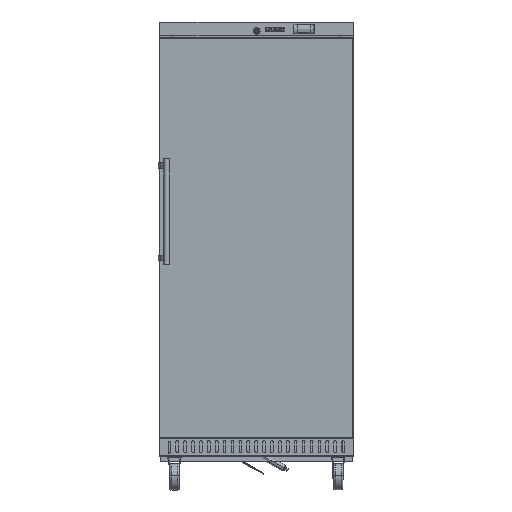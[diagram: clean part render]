
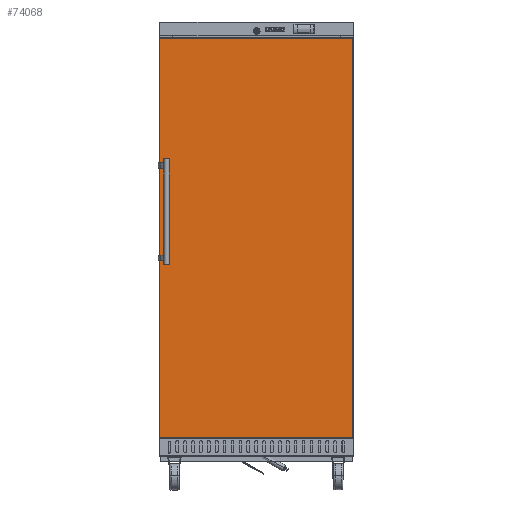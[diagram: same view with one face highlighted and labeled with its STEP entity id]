
A CAD part, top view. The second image highlights one B-rep face of the part: STEP entity #74068.
In plain terms, the highlighted planar face has unit normal (0, 0, 1).
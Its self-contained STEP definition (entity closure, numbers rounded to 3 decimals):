
#1349 = CARTESIAN_POINT ( 'NONE',  ( 282.982, 1.7, 1419.391 ) ) ;
#2072 = ORIENTED_EDGE ( 'NONE', *, *, #49509, .T. ) ;
#2978 = VERTEX_POINT ( 'NONE', #10188 ) ;
#3925 = DIRECTION ( 'NONE',  ( 0., -1., 0. ) ) ;
#4974 = ORIENTED_EDGE ( 'NONE', *, *, #12097, .T. ) ;
#6656 = VECTOR ( 'NONE', #17527, 1000. ) ;
#10157 = DIRECTION ( 'NONE',  ( 0., -1., 0. ) ) ;
#10188 = CARTESIAN_POINT ( 'NONE',  ( 282.982, 1519.708, 1419.391 ) ) ;
#11444 = CARTESIAN_POINT ( 'NONE',  ( 650.182, 760.9, 1419.391 ) ) ;
#12097 = EDGE_CURVE ( 'NONE', #62362, #40141, #15138, .T. ) ;
#12110 = VECTOR ( 'NONE', #76578, 1000. ) ;
#12318 = LINE ( 'NONE', #32476, #88519 ) ;
#15138 = LINE ( 'NONE', #1349, #12110 ) ;
#17527 = DIRECTION ( 'NONE',  ( 0., 1., 0. ) ) ;
#17734 = EDGE_CURVE ( 'NONE', #63901, #2978, #12318, .T. ) ;
#20521 = DIRECTION ( 'NONE',  ( 0., -1., 0. ) ) ;
#22269 = VECTOR ( 'NONE', #55983, 1000. ) ;
#25310 = CARTESIAN_POINT ( 'NONE',  ( 1017.382, 1520.1, 1419.391 ) ) ;
#26125 = ORIENTED_EDGE ( 'NONE', *, *, #68831, .T. ) ;
#27349 = VECTOR ( 'NONE', #10157, 1000. ) ;
#32476 = CARTESIAN_POINT ( 'NONE',  ( 282.982, 1520.1, 1419.391 ) ) ;
#34477 = CARTESIAN_POINT ( 'NONE',  ( 1017.382, 1520.1, 1419.391 ) ) ;
#37516 = VERTEX_POINT ( 'NONE', #68591 ) ;
#38928 = FACE_OUTER_BOUND ( 'NONE', #70130, .T. ) ;
#40141 = VERTEX_POINT ( 'NONE', #86664 ) ;
#43302 = ORIENTED_EDGE ( 'NONE', *, *, #62602, .T. ) ;
#47586 = PLANE ( 'NONE',  #65403 ) ;
#49509 = EDGE_CURVE ( 'NONE', #2978, #37516, #73136, .T. ) ;
#53398 = CARTESIAN_POINT ( 'NONE',  ( 282.982, 1520.1, 1419.391 ) ) ;
#53401 = VERTEX_POINT ( 'NONE', #25310 ) ;
#53668 = CARTESIAN_POINT ( 'NONE',  ( 1017.382, 1.7, 1419.391 ) ) ;
#55983 = DIRECTION ( 'NONE',  ( -1., 0., 0. ) ) ;
#59979 = DIRECTION ( 'NONE',  ( 0., 1., 0. ) ) ;
#61005 = LINE ( 'NONE', #53668, #6656 ) ;
#61957 = CARTESIAN_POINT ( 'NONE',  ( 282.982, 1520.1, 1419.391 ) ) ;
#62362 = VERTEX_POINT ( 'NONE', #72522 ) ;
#62602 = EDGE_CURVE ( 'NONE', #40141, #53401, #61005, .T. ) ;
#63901 = VERTEX_POINT ( 'NONE', #61957 ) ;
#65403 = AXIS2_PLACEMENT_3D ( 'NONE', #11444, #89742, #59979 ) ;
#66953 = CARTESIAN_POINT ( 'NONE',  ( 282.982, 1520.1, 1419.391 ) ) ;
#67881 = LINE ( 'NONE', #66953, #27349 ) ;
#68591 = CARTESIAN_POINT ( 'NONE',  ( 282.982, 2.092, 1419.391 ) ) ;
#68831 = EDGE_CURVE ( 'NONE', #53401, #63901, #84400, .T. ) ;
#70130 = EDGE_LOOP ( 'NONE', ( #77016, #2072, #75050, #4974, #43302, #26125 ) ) ;
#72522 = CARTESIAN_POINT ( 'NONE',  ( 282.982, 1.7, 1419.391 ) ) ;
#73136 = LINE ( 'NONE', #53398, #83772 ) ;
#74068 = ADVANCED_FACE ( 'NONE', ( #38928 ), #47586, .T. ) ;
#75050 = ORIENTED_EDGE ( 'NONE', *, *, #80727, .T. ) ;
#76578 = DIRECTION ( 'NONE',  ( 1., 0., 0. ) ) ;
#77016 = ORIENTED_EDGE ( 'NONE', *, *, #17734, .T. ) ;
#80727 = EDGE_CURVE ( 'NONE', #37516, #62362, #67881, .T. ) ;
#83772 = VECTOR ( 'NONE', #3925, 1000. ) ;
#84400 = LINE ( 'NONE', #34477, #22269 ) ;
#86664 = CARTESIAN_POINT ( 'NONE',  ( 1017.382, 1.7, 1419.391 ) ) ;
#88519 = VECTOR ( 'NONE', #20521, 1000. ) ;
#89742 = DIRECTION ( 'NONE',  ( 0., 0., 1. ) ) ;
